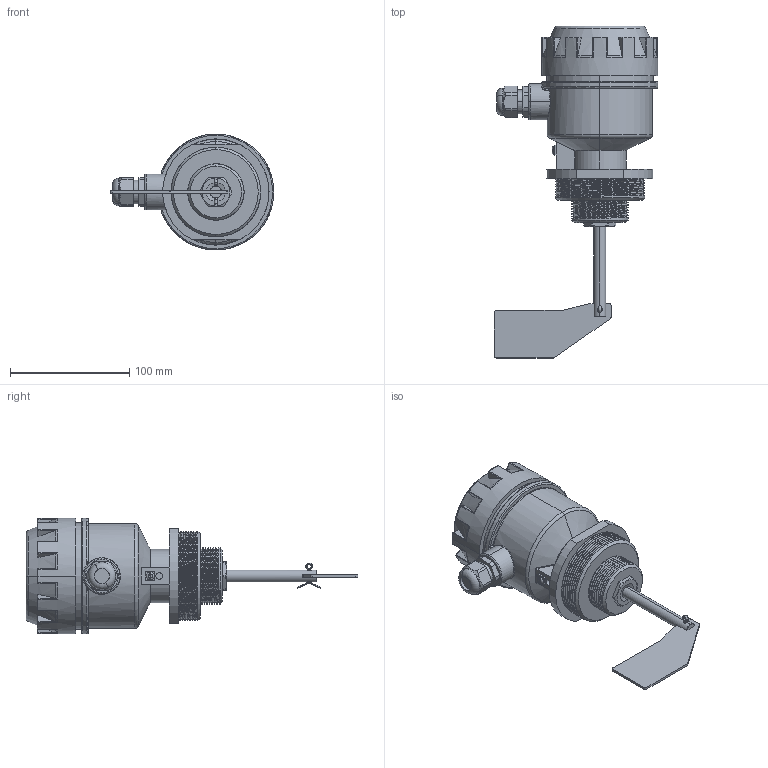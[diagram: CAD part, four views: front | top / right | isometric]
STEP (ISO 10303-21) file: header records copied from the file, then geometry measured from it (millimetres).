
FILE_DESCRIPTION (( 'STEP AP214' ), '1' );
FILE_NAME ('IL-LDA-N - ð.STEP', '2020-12-23T16:29:25', ( '' ), ( '' ), 'SwSTEP 2.0', 'SolidWorks 2020', '' );
FILE_SCHEMA (( 'AUTOMOTIVE_DESIGN' ));
Length unit declared in the file: millimetre
Products named in the file (7): Êðûøêà; 幄鼭歑; Êîðïóñ-ð; Ëîïàñòü; IL-LDA-N - ð; 扻錝僝鍧; Øïèëüêà
Assembly tree (6 placements, depth 2):
  IL-LDA-N - ð
    Êîðïóñ-ð
    扻錝僝鍧
    Êðûøêà
    Ëîïàñòü
    Øïèëüêà
    幄鼭歑
Bounding box: 137 x 278 x 97 mm (x, y, z)
Volume: 669111.8 mm3; surface area: 106044.2 mm2
Topology: 6 solids, 6 shells, 442 faces, 1087 edges, 655 vertices
Faces by surface type: cylinder 181, plane 114, torus 71, sphere 32, cone 23, bspline 21
Entity records: 20629 total; most frequent: CARTESIAN_POINT 10329, DIRECTION 2138, ORIENTED_EDGE 2134, EDGE_CURVE 1067, AXIS2_PLACEMENT_3D 881, VERTEX_POINT 647, EDGE_LOOP 458, CIRCLE 451
